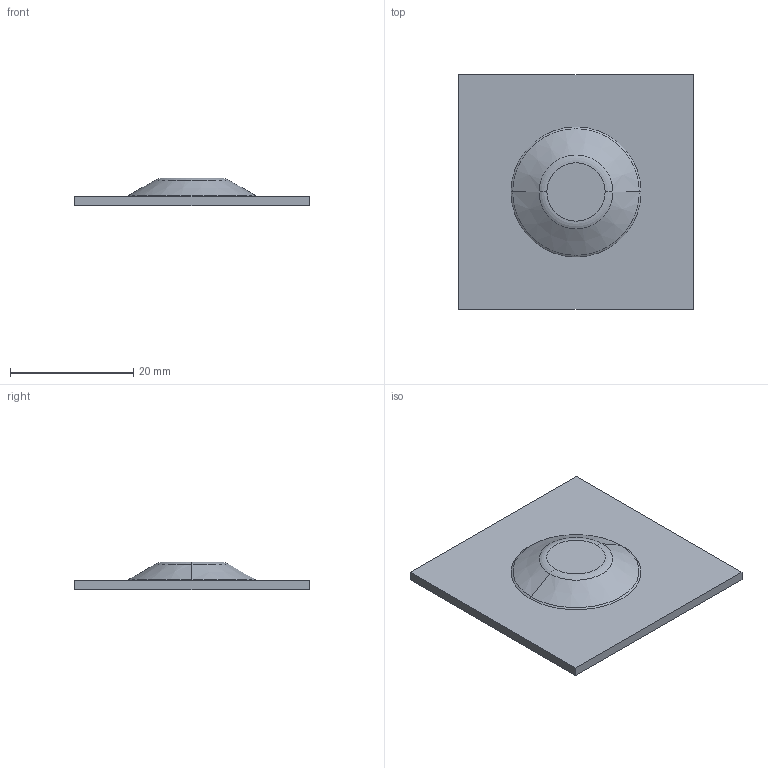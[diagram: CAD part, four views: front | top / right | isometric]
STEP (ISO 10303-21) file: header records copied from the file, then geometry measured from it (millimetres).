
FILE_DESCRIPTION((''),'2;1');
FILE_NAME('C:/Users/robertnolte/Desktop/EMBOSS.STP', '2023-07-21T20:10:10',(''), (''), 'Kubotek Kosmos Version 5.1.13296.13296', 'KeyCreator Pro', '');
FILE_SCHEMA(('CONFIG_CONTROL_DESIGN'));
Length unit declared in the file: inch
Bounding box: 38.1 x 38.1 x 4.5 mm (x, y, z)
Volume: 2238.1 mm3; surface area: 3213.9 mm2
Topology: 1 solids, 1 shells, 20 faces, 40 edges, 24 vertices
Faces by surface type: plane 8, torus 8, cone 4
Entity records: 661 total; most frequent: DIRECTION 106, CARTESIAN_POINT 88, ORIENTED_EDGE 80, GENERAL_PROPERTY 61, AXIS2_PLACEMENT_3D 45, EDGE_CURVE 40, VERTEX_POINT 24, CIRCLE 24
